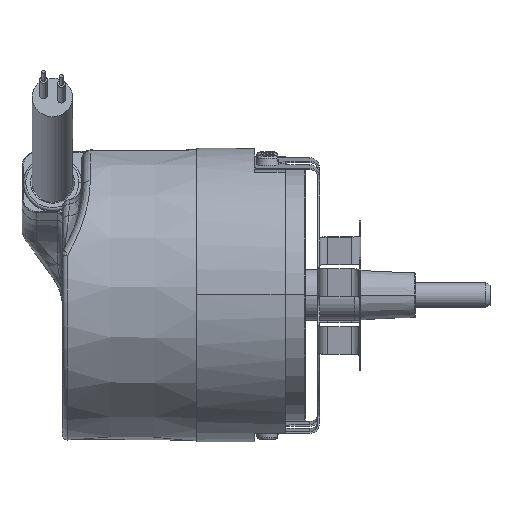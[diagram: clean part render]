
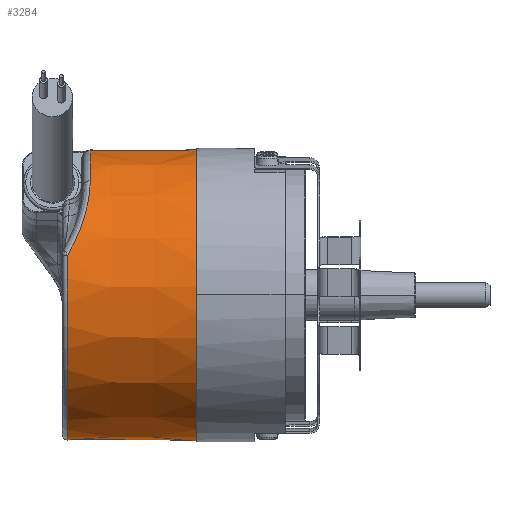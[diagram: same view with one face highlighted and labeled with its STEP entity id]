
A CAD part, top view. The second image highlights one B-rep face of the part: STEP entity #3284.
In plain terms, the highlighted conical face has half-angle 0.5 degrees and reference radius 29 mm.
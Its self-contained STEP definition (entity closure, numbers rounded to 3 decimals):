
#2833 = AXIS2_PLACEMENT_3D ( 'NONE', #10376, #10377, #10378 ) ;
#3284 = ADVANCED_FACE ( 'NONE', ( #60129 ), #26925, .T. ) ;
#4508 = VERTEX_POINT ( 'NONE', #32791 ) ;
#4550 = VERTEX_POINT ( 'NONE', #32833 ) ;
#10376 = CARTESIAN_POINT ( 'NONE',  ( -13.513, 0., 0. ) ) ;
#10377 = DIRECTION ( 'NONE',  ( 1., 0., 0. ) ) ;
#10378 = DIRECTION ( 'NONE',  ( 0., -0.992, -0.122 ) ) ;
#12605 = AXIS2_PLACEMENT_3D ( 'NONE', #13599, #13600, #13601 ) ;
#13599 = CARTESIAN_POINT ( 'NONE',  ( -18.009, 0., 0. ) ) ;
#13600 = DIRECTION ( 'NONE',  ( 1., 0., 0. ) ) ;
#13601 = DIRECTION ( 'NONE',  ( 0., 0.992, 0.122 ) ) ;
#18988 = EDGE_CURVE ( 'NONE', #47086, #4550, #54981, .T. ) ;
#18991 = EDGE_CURVE ( 'NONE', #46863, #4508, #54990, .T. ) ;
#19017 = EDGE_CURVE ( 'NONE', #61506, #46902, #54646, .T. ) ;
#19018 = EDGE_CURVE ( 'NONE', #4550, #4508, #50607, .T. ) ;
#21716 = CARTESIAN_POINT ( 'NONE',  ( -18.009, -28.462, -3.507 ) ) ;
#21768 = CARTESIAN_POINT ( 'NONE',  ( -18.009, 7.811, 27.593 ) ) ;
#22116 = CARTESIAN_POINT ( 'NONE',  ( -13.513, 28.501, 3.512 ) ) ;
#23952 = ORIENTED_EDGE ( 'NONE', *, *, #18988, .F. ) ;
#23953 = ORIENTED_EDGE ( 'NONE', *, *, #41459, .T. ) ;
#23954 = ORIENTED_EDGE ( 'NONE', *, *, #19017, .T. ) ;
#23955 = ORIENTED_EDGE ( 'NONE', *, *, #19018, .F. ) ;
#23956 = ORIENTED_EDGE ( 'NONE', *, *, #42525, .T. ) ;
#23957 = ORIENTED_EDGE ( 'NONE', *, *, #18991, .T. ) ;
#24203 = EDGE_LOOP ( 'NONE', ( #23952, #23953, #23954, #23956, #23957, #23955 ) ) ;
#25777 = CARTESIAN_POINT ( 'NONE',  ( -13.513, 22.568, 17.757 ) ) ;
#26925 = CONICAL_SURFACE ( 'NONE', #60128, 29., 0.009 ) ;
#29145 = CARTESIAN_POINT ( 'NONE',  ( 19., 0., 0. ) ) ;
#29146 = DIRECTION ( 'NONE',  ( 1., 0., 0. ) ) ;
#29147 = DIRECTION ( 'NONE',  ( 0., -0.992, -0.122 ) ) ;
#32791 = CARTESIAN_POINT ( 'NONE',  ( 7.5, -28.683, -3.534 ) ) ;
#32833 = CARTESIAN_POINT ( 'NONE',  ( 7.5, 28.683, 3.534 ) ) ;
#41459 = EDGE_CURVE ( 'NONE', #47086, #61506, #50918, .T. ) ;
#42525 = EDGE_CURVE ( 'NONE', #46902, #46863, #51060, .T. ) ;
#46863 = VERTEX_POINT ( 'NONE', #21716 ) ;
#46902 = VERTEX_POINT ( 'NONE', #21768 ) ;
#47086 = VERTEX_POINT ( 'NONE', #22116 ) ;
#49999 = VECTOR ( 'NONE', #54983, 1000. ) ;
#50003 = VECTOR ( 'NONE', #54992, 1000. ) ;
#50014 = AXIS2_PLACEMENT_3D ( 'NONE', #55112, #55113, #55114 ) ;
#50607 = CIRCLE ( 'NONE', #50014, 28.9 ) ;
#50918 = CIRCLE ( 'NONE', #2833, 28.716 ) ;
#51060 = CIRCLE ( 'NONE', #12605, 28.677 ) ;
#54646 = B_SPLINE_CURVE_WITH_KNOTS ( 'NONE', 3,
 ( #55096, #55097, #55098, #55099, #55100, #55101, #55102, #55103, #55104, #55105, #55106, #55107, #55108, #55109, #55110, #55111 ),
 .UNSPECIFIED., .F., .F.,
 ( 4, 2, 2, 2, 2, 2, 2, 4 ),
 ( 0., 0.005, 0.006, 0.007, 0.009, 0.014, 0.016, 0.019 ),
 .UNSPECIFIED. ) ;
#54981 = LINE ( 'NONE', #54982, #49999 ) ;
#54982 = CARTESIAN_POINT ( 'NONE',  ( 19., 28.782, 3.546 ) ) ;
#54983 = DIRECTION ( 'NONE',  ( 1., 0.009, 0.001 ) ) ;
#54990 = LINE ( 'NONE', #54991, #50003 ) ;
#54991 = CARTESIAN_POINT ( 'NONE',  ( 19., -28.782, -3.546 ) ) ;
#54992 = DIRECTION ( 'NONE',  ( 1., -0.009, -0.001 ) ) ;
#55096 = CARTESIAN_POINT ( 'NONE',  ( -13.513, 22.568, 17.757 ) ) ;
#55097 = CARTESIAN_POINT ( 'NONE',  ( -13.513, 21.592, 18.997 ) ) ;
#55098 = CARTESIAN_POINT ( 'NONE',  ( -13.587, 20.526, 20.142 ) ) ;
#55099 = CARTESIAN_POINT ( 'NONE',  ( -13.798, 19.086, 21.456 ) ) ;
#55100 = CARTESIAN_POINT ( 'NONE',  ( -13.846, 18.792, 21.713 ) ) ;
#55101 = CARTESIAN_POINT ( 'NONE',  ( -13.955, 18.195, 22.215 ) ) ;
#55102 = CARTESIAN_POINT ( 'NONE',  ( -14.016, 17.89, 22.46 ) ) ;
#55103 = CARTESIAN_POINT ( 'NONE',  ( -14.216, 16.971, 23.17 ) ) ;
#55104 = CARTESIAN_POINT ( 'NONE',  ( -14.374, 16.348, 23.612 ) ) ;
#55105 = CARTESIAN_POINT ( 'NONE',  ( -14.923, 14.449, 24.848 ) ) ;
#55106 = CARTESIAN_POINT ( 'NONE',  ( -15.389, 13.145, 25.554 ) ) ;
#55107 = CARTESIAN_POINT ( 'NONE',  ( -16.255, 11.146, 26.449 ) ) ;
#55108 = CARTESIAN_POINT ( 'NONE',  ( -16.572, 10.473, 26.719 ) ) ;
#55109 = CARTESIAN_POINT ( 'NONE',  ( -17.253, 9.137, 27.199 ) ) ;
#55110 = CARTESIAN_POINT ( 'NONE',  ( -17.619, 8.472, 27.409 ) ) ;
#55111 = CARTESIAN_POINT ( 'NONE',  ( -18.009, 7.811, 27.593 ) ) ;
#55112 = CARTESIAN_POINT ( 'NONE',  ( 7.5, 0., 0. ) ) ;
#55113 = DIRECTION ( 'NONE',  ( 1., 0., 0. ) ) ;
#55114 = DIRECTION ( 'NONE',  ( 0., -0.992, -0.122 ) ) ;
#60128 = AXIS2_PLACEMENT_3D ( 'NONE', #29145, #29146, #29147 ) ;
#60129 = FACE_OUTER_BOUND ( 'NONE', #24203, .T. ) ;
#61506 = VERTEX_POINT ( 'NONE', #25777 ) ;
